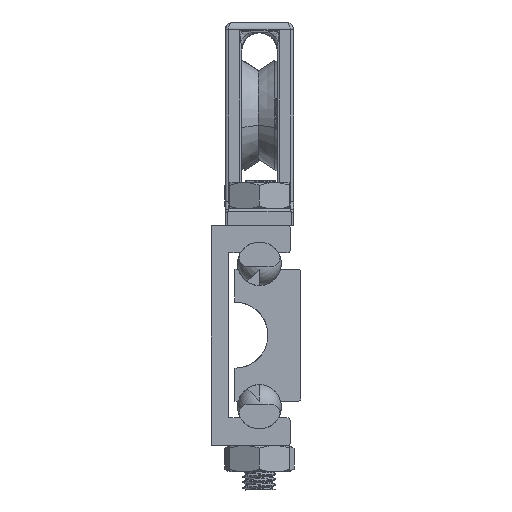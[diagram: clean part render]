
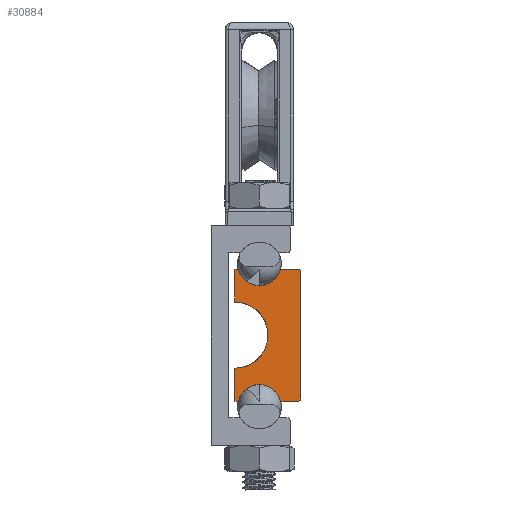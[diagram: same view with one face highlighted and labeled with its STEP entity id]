
A CAD part, front view. The second image highlights one B-rep face of the part: STEP entity #30884.
In plain terms, the highlighted planar face has unit normal (0, -1, 0) as drawn and (0, 1, 0) by its records, which use the part's own axes.
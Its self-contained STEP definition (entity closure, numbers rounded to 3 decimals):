
#307 = CIRCLE ( 'NONE', #39395, 1.984 ) ;
#940 = AXIS2_PLACEMENT_3D ( 'NONE', #32458, #5354, #48856 ) ;
#1077 = CARTESIAN_POINT ( 'NONE',  ( -6., 304.8, 0.2 ) ) ;
#1996 = DIRECTION ( 'NONE',  ( 0., 0., -1. ) ) ;
#2138 = CARTESIAN_POINT ( 'NONE',  ( 6., 304.8, 6. ) ) ;
#2650 = CARTESIAN_POINT ( 'NONE',  ( 6., 304.8, 0. ) ) ;
#2654 = EDGE_CURVE ( 'NONE', #34967, #40982, #25574, .T. ) ;
#2761 = VERTEX_POINT ( 'NONE', #2138 ) ;
#3285 = DIRECTION ( 'NONE',  ( 0., 1., 0. ) ) ;
#3387 = AXIS2_PLACEMENT_3D ( 'NONE', #13731, #18391, #22312 ) ;
#3630 = CARTESIAN_POINT ( 'NONE',  ( 5.8, 304.8, 0. ) ) ;
#3892 = ORIENTED_EDGE ( 'NONE', *, *, #9936, .F. ) ;
#4137 = VECTOR ( 'NONE', #38832, 1000. ) ;
#4175 = EDGE_CURVE ( 'NONE', #40882, #11733, #8109, .T. ) ;
#4288 = CARTESIAN_POINT ( 'NONE',  ( -6., 304.8, 5.703 ) ) ;
#4582 = VERTEX_POINT ( 'NONE', #7209 ) ;
#4982 = ORIENTED_EDGE ( 'NONE', *, *, #4175, .F. ) ;
#5354 = DIRECTION ( 'NONE',  ( 0., 1., 0. ) ) ;
#5820 = DIRECTION ( 'NONE',  ( 0., 0., 1. ) ) ;
#5888 = LINE ( 'NONE', #34018, #30074 ) ;
#7209 = CARTESIAN_POINT ( 'NONE',  ( -5.8, 304.8, 0. ) ) ;
#8109 = LINE ( 'NONE', #23971, #4137 ) ;
#8129 = AXIS2_PLACEMENT_3D ( 'NONE', #50944, #3285, #34799 ) ;
#8397 = CARTESIAN_POINT ( 'NONE',  ( -5.8, 304.8, 0.2 ) ) ;
#8543 = ORIENTED_EDGE ( 'NONE', *, *, #31748, .F. ) ;
#8603 = EDGE_CURVE ( 'NONE', #34967, #36760, #50794, .T. ) ;
#8652 = DIRECTION ( 'NONE',  ( 0., 0., 1. ) ) ;
#9528 = ORIENTED_EDGE ( 'NONE', *, *, #24769, .F. ) ;
#9784 = CIRCLE ( 'NONE', #8129, 3. ) ;
#9936 = EDGE_CURVE ( 'NONE', #38777, #2761, #15843, .T. ) ;
#10146 = DIRECTION ( 'NONE',  ( -1., 0., 0. ) ) ;
#10892 = EDGE_CURVE ( 'NONE', #40982, #38777, #41672, .T. ) ;
#11677 = VERTEX_POINT ( 'NONE', #18879 ) ;
#11733 = VERTEX_POINT ( 'NONE', #4288 ) ;
#12056 = EDGE_CURVE ( 'NONE', #11733, #24331, #307, .T. ) ;
#12295 = DIRECTION ( 'NONE',  ( 0., 1., 0. ) ) ;
#12753 = VERTEX_POINT ( 'NONE', #25243 ) ;
#13091 = CARTESIAN_POINT ( 'NONE',  ( 6., 304.8, 0.2 ) ) ;
#13453 = EDGE_LOOP ( 'NONE', ( #16762, #40283, #31454, #25363, #4982, #8543, #29229, #9528, #33073, #3892, #34275, #50354, #17540 ) ) ;
#13731 = CARTESIAN_POINT ( 'NONE',  ( 5.8, 304.8, 0.2 ) ) ;
#13858 = DIRECTION ( 'NONE',  ( 0., 0., 1. ) ) ;
#15843 = LINE ( 'NONE', #36148, #18398 ) ;
#16023 = CIRCLE ( 'NONE', #45129, 0.2 ) ;
#16762 = ORIENTED_EDGE ( 'NONE', *, *, #27730, .F. ) ;
#17540 = ORIENTED_EDGE ( 'NONE', *, *, #8603, .T. ) ;
#17748 = PLANE ( 'NONE',  #48074 ) ;
#18391 = DIRECTION ( 'NONE',  ( 0., 1., 0. ) ) ;
#18398 = VECTOR ( 'NONE', #43712, 1000. ) ;
#18879 = CARTESIAN_POINT ( 'NONE',  ( 3., 304.8, 6. ) ) ;
#19312 = CARTESIAN_POINT ( 'NONE',  ( -3., 304.8, 6. ) ) ;
#20102 = EDGE_CURVE ( 'NONE', #2761, #11677, #45562, .T. ) ;
#22312 = DIRECTION ( 'NONE',  ( 0., 0., 1. ) ) ;
#22432 = FACE_OUTER_BOUND ( 'NONE', #13453, .T. ) ;
#23971 = CARTESIAN_POINT ( 'NONE',  ( -6., 304.8, 6. ) ) ;
#24331 = VERTEX_POINT ( 'NONE', #49887 ) ;
#24769 = EDGE_CURVE ( 'NONE', #11677, #27598, #36443, .T. ) ;
#25243 = CARTESIAN_POINT ( 'NONE',  ( -3., 304.8, 6. ) ) ;
#25359 = DIRECTION ( 'NONE',  ( 0., 1., 0. ) ) ;
#25363 = ORIENTED_EDGE ( 'NONE', *, *, #12056, .F. ) ;
#25574 = LINE ( 'NONE', #2650, #49013 ) ;
#27312 = CARTESIAN_POINT ( 'NONE',  ( 6., 304.8, 1.854 ) ) ;
#27598 = VERTEX_POINT ( 'NONE', #39497 ) ;
#27730 = EDGE_CURVE ( 'NONE', #4582, #36760, #37836, .T. ) ;
#28176 = DIRECTION ( 'NONE',  ( 0., 0., 1. ) ) ;
#28632 = EDGE_CURVE ( 'NONE', #24331, #45989, #5888, .T. ) ;
#29229 = ORIENTED_EDGE ( 'NONE', *, *, #49853, .F. ) ;
#29838 = VECTOR ( 'NONE', #35208, 1000. ) ;
#29957 = CARTESIAN_POINT ( 'NONE',  ( 6., 304.8, 6. ) ) ;
#30074 = VECTOR ( 'NONE', #1996, 1000. ) ;
#30884 = ADVANCED_FACE ( 'NONE', ( #22432 ), #17748, .T. ) ;
#31454 = ORIENTED_EDGE ( 'NONE', *, *, #28632, .F. ) ;
#31748 = EDGE_CURVE ( 'NONE', #12753, #40882, #42503, .T. ) ;
#32458 = CARTESIAN_POINT ( 'NONE',  ( 6.485, 304.8, 3.778 ) ) ;
#32498 = CARTESIAN_POINT ( 'NONE',  ( 6., 304.8, 5.703 ) ) ;
#33073 = ORIENTED_EDGE ( 'NONE', *, *, #20102, .F. ) ;
#33435 = CARTESIAN_POINT ( 'NONE',  ( -6., 304.8, 0. ) ) ;
#34018 = CARTESIAN_POINT ( 'NONE',  ( -6., 304.8, 1.854 ) ) ;
#34275 = ORIENTED_EDGE ( 'NONE', *, *, #10892, .F. ) ;
#34799 = DIRECTION ( 'NONE',  ( 0., 0., 1. ) ) ;
#34967 = VERTEX_POINT ( 'NONE', #13091 ) ;
#35208 = DIRECTION ( 'NONE',  ( -1., 0., 0. ) ) ;
#35978 = DIRECTION ( 'NONE',  ( 0., 1., 0. ) ) ;
#36148 = CARTESIAN_POINT ( 'NONE',  ( 6., 304.8, 5.703 ) ) ;
#36443 = CIRCLE ( 'NONE', #45593, 3. ) ;
#36760 = VERTEX_POINT ( 'NONE', #3630 ) ;
#37549 = CARTESIAN_POINT ( 'NONE',  ( 6.485, 304.8, 3.778 ) ) ;
#37836 = LINE ( 'NONE', #33435, #47530 ) ;
#38777 = VERTEX_POINT ( 'NONE', #32498 ) ;
#38832 = DIRECTION ( 'NONE',  ( 0., 0., -1. ) ) ;
#39395 = AXIS2_PLACEMENT_3D ( 'NONE', #47970, #12295, #28176 ) ;
#39497 = CARTESIAN_POINT ( 'NONE',  ( 0., 304.8, 3. ) ) ;
#40283 = ORIENTED_EDGE ( 'NONE', *, *, #41901, .T. ) ;
#40882 = VERTEX_POINT ( 'NONE', #43184 ) ;
#40982 = VERTEX_POINT ( 'NONE', #27312 ) ;
#41454 = DIRECTION ( 'NONE',  ( 0., 0., 1. ) ) ;
#41494 = CARTESIAN_POINT ( 'NONE',  ( 0., 304.8, 6. ) ) ;
#41672 = CIRCLE ( 'NONE', #940, 1.984 ) ;
#41901 = EDGE_CURVE ( 'NONE', #4582, #45989, #16023, .T. ) ;
#42503 = LINE ( 'NONE', #19312, #29838 ) ;
#43184 = CARTESIAN_POINT ( 'NONE',  ( -6., 304.8, 6. ) ) ;
#43712 = DIRECTION ( 'NONE',  ( 0., 0., 1. ) ) ;
#45129 = AXIS2_PLACEMENT_3D ( 'NONE', #8397, #35978, #8652 ) ;
#45562 = LINE ( 'NONE', #29957, #47920 ) ;
#45593 = AXIS2_PLACEMENT_3D ( 'NONE', #41494, #25359, #5820 ) ;
#45989 = VERTEX_POINT ( 'NONE', #1077 ) ;
#47530 = VECTOR ( 'NONE', #49820, 1000. ) ;
#47920 = VECTOR ( 'NONE', #10146, 1000. ) ;
#47970 = CARTESIAN_POINT ( 'NONE',  ( -6.484, 304.8, 3.778 ) ) ;
#48074 = AXIS2_PLACEMENT_3D ( 'NONE', #37549, #49531, #13858 ) ;
#48856 = DIRECTION ( 'NONE',  ( 0., 0., 1. ) ) ;
#49013 = VECTOR ( 'NONE', #41454, 1000. ) ;
#49531 = DIRECTION ( 'NONE',  ( 0., 1., 0. ) ) ;
#49820 = DIRECTION ( 'NONE',  ( 1., 0., 0. ) ) ;
#49853 = EDGE_CURVE ( 'NONE', #27598, #12753, #9784, .T. ) ;
#49887 = CARTESIAN_POINT ( 'NONE',  ( -6., 304.8, 1.854 ) ) ;
#50354 = ORIENTED_EDGE ( 'NONE', *, *, #2654, .F. ) ;
#50794 = CIRCLE ( 'NONE', #3387, 0.2 ) ;
#50944 = CARTESIAN_POINT ( 'NONE',  ( 0., 304.8, 6. ) ) ;
